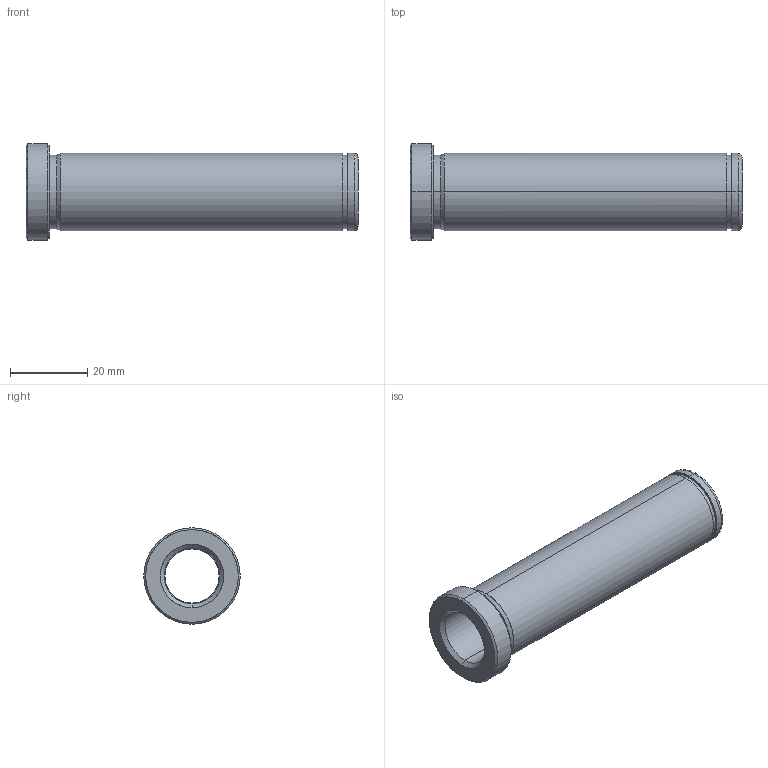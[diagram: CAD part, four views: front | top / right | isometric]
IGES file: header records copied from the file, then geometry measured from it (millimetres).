
Start section: START RECORD GO HERE.
Global section: file name: 553-14X86.igs; native system: DASSAULT SYSTEMES CATIA V5 R20 - www.3ds.com; preprocessor: CATIA Version 5 Release 20 ; author: Utente; organization: NB04-ASUS; date: 20210521.202137; units: millimetre
Bounding box: 86 x 25 x 25 mm (x, y, z)
Surface area: 9978.6 mm2 (no closed solid volume)
Topology: 0 solids, 0 shells, 32 faces, 204 edges, 204 vertices
Faces by surface type: revolution 26, plane 6
